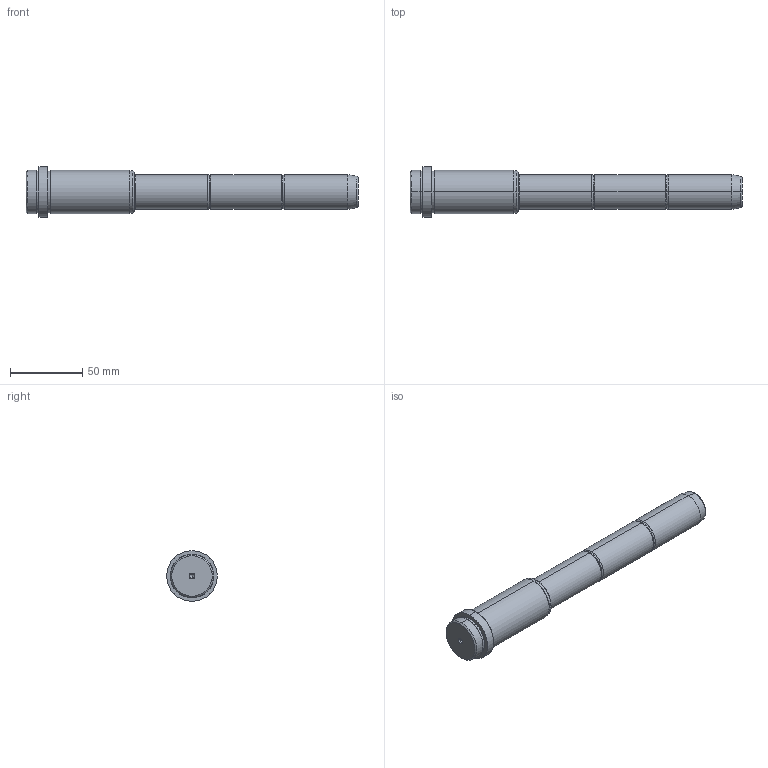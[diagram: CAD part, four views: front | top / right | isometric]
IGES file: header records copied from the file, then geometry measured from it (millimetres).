
Start section: SolidWorks IGES FILE using analytic representation for surfaces
Global section: file name: D:\zzzzz\Delta\D03\24\D03 - 24x66x155.IGS; native system: SolidWorks 2004 by SolidWorks Corporation; preprocessor: Version 5.3; author: Hkn; date: 080327.165510; units: millimetre
Bounding box: 230 x 35 x 35 mm (x, y, z)
Surface area: 20763.3 mm2 (no closed solid volume)
Topology: 0 solids, 0 shells, 56 faces, 1056 edges, 1052 vertices
Faces by surface type: revolution 36, bspline 20
